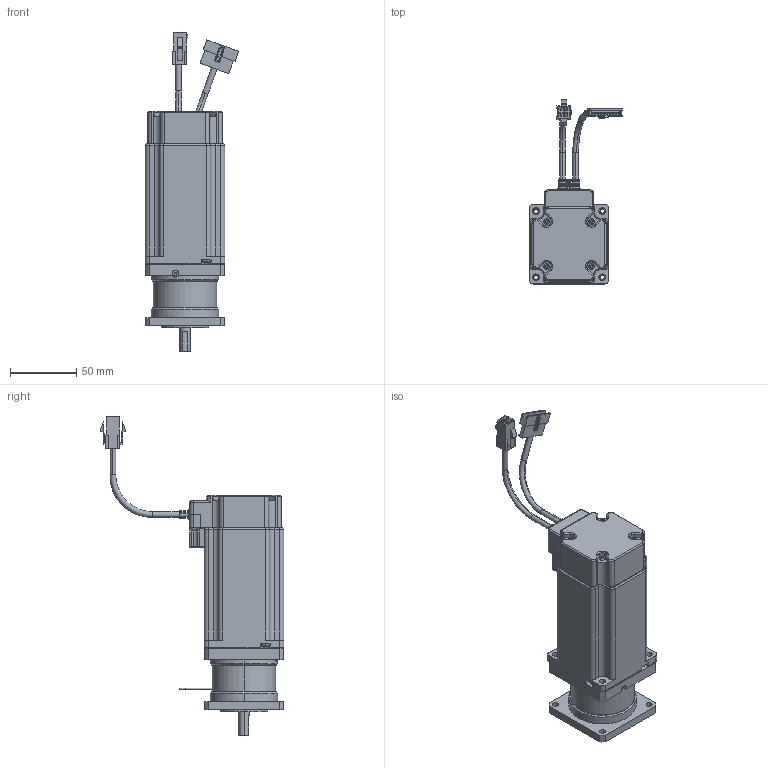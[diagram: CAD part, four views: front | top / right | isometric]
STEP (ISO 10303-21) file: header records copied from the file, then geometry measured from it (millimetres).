
FILE_DESCRIPTION (( 'STEP AP203' ), '1' );
FILE_NAME ('130416 Ezi-SERVO BK-60L.STEP', '2013-04-16T03:40:58', ( '' ), ( '' ), 'SwSTEP 2.0', 'SolidWorks 2012', '' );
FILE_SCHEMA (( 'CONFIG_CONTROL_DESIGN' ));
Length unit declared in the file: metre
Products named in the file (15): 130416 Ezi-SERVO BK-60L; BK60; MainEzM-60L-assembly-1; MainM3-screw12-1; MainM3-screw11-1; MainM3-screw10-1; MainM3-screw9-1; MainM3-screw8-1; MainM3-screw7-1; Main60_Encoder_Plate-1; MainEZSV_60_Encoder_Cover-1; MainEZSV_60_Cable_Cover-1; MainEncoder_Cable_60-1; MainPower_Cable_60-1; MainEzM-60L-1
Assembly tree (14 placements, depth 3):
  130416 Ezi-SERVO BK-60L
    MainEzM-60L-assembly-1
      MainEzM-60L-1
      MainPower_Cable_60-1
      MainEncoder_Cable_60-1
      MainEZSV_60_Cable_Cover-1
      MainEZSV_60_Encoder_Cover-1
      Main60_Encoder_Plate-1
      MainM3-screw7-1
      MainM3-screw8-1
      MainM3-screw9-1
      MainM3-screw10-1
      MainM3-screw11-1
      MainM3-screw12-1
    BK60
Bounding box: 70.49 x 138.64 x 240.65 mm (x, y, z)
Volume: 319786.4 mm3; surface area: 91125.9 mm2
Topology: 12 solids, 28 shells, 1136 faces, 3077 edges, 2005 vertices
Faces by surface type: plane 574, cylinder 450, bspline 49, cone 30, sphere 24, torus 9
Entity records: 42098 total; most frequent: CARTESIAN_POINT 12145, ORIENTED_EDGE 5901, DIRECTION 5895, EDGE_CURVE 3017, AXIS2_PLACEMENT_3D 2133, VERTEX_POINT 1985, VECTOR 1629, LINE 1629
